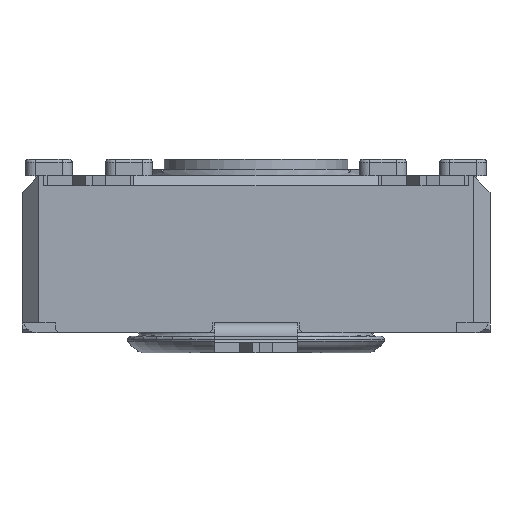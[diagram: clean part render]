
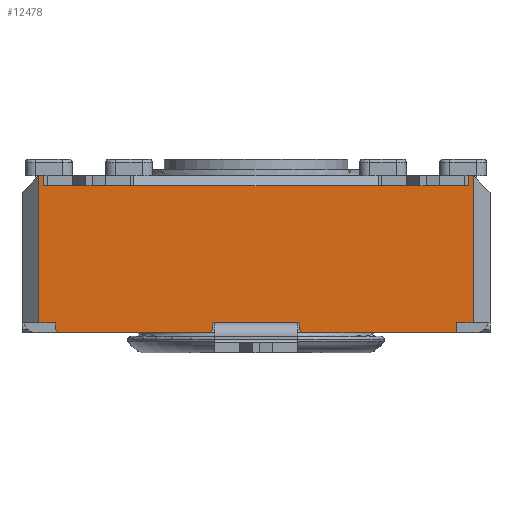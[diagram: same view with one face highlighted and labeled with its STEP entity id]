
A CAD part, front view. The second image highlights one B-rep face of the part: STEP entity #12478.
In plain terms, the highlighted planar face has unit normal (0, -1, 0).
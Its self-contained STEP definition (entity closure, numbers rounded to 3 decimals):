
#192=PLANE('',#13187);
#691=FACE_OUTER_BOUND('',#1356,.T.);
#1356=EDGE_LOOP('',(#8649,#8650,#8651,#8652,#8653,#8654,#8655,#8656,#8657,
#8658,#8659,#8660,#8661,#8662,#8663,#8664,#8665,#8666,#8667,#8668,#8669,
#8670,#8671,#8672,#8673,#8674,#8675));
#2076=LINE('',#17830,#3553);
#2088=LINE('',#17862,#3565);
#2093=LINE('',#17872,#3570);
#2149=LINE('',#17988,#3626);
#2152=LINE('',#17994,#3629);
#2178=LINE('',#18058,#3655);
#2179=LINE('',#18060,#3656);
#2180=LINE('',#18062,#3657);
#2181=LINE('',#18063,#3658);
#2182=LINE('',#18065,#3659);
#2183=LINE('',#18067,#3660);
#2184=LINE('',#18069,#3661);
#2185=LINE('',#18071,#3662);
#2186=LINE('',#18072,#3663);
#2187=LINE('',#18074,#3664);
#2188=LINE('',#18076,#3665);
#2189=LINE('',#18078,#3666);
#2190=LINE('',#18080,#3667);
#2191=LINE('',#18082,#3668);
#2192=LINE('',#18084,#3669);
#2193=LINE('',#18086,#3670);
#2194=LINE('',#18088,#3671);
#2195=LINE('',#18090,#3672);
#2196=LINE('',#18091,#3673);
#2197=LINE('',#18093,#3674);
#2198=LINE('',#18095,#3675);
#2199=LINE('',#18096,#3676);
#3553=VECTOR('',#14302,10.);
#3565=VECTOR('',#14338,10.);
#3570=VECTOR('',#14343,10.);
#3626=VECTOR('',#14411,10.);
#3629=VECTOR('',#14416,10.);
#3655=VECTOR('',#14464,10.);
#3656=VECTOR('',#14465,10.);
#3657=VECTOR('',#14466,10.);
#3658=VECTOR('',#14467,10.);
#3659=VECTOR('',#14468,10.);
#3660=VECTOR('',#14469,10.);
#3661=VECTOR('',#14470,10.);
#3662=VECTOR('',#14471,10.);
#3663=VECTOR('',#14472,10.);
#3664=VECTOR('',#14473,10.);
#3665=VECTOR('',#14474,10.);
#3666=VECTOR('',#14475,10.);
#3667=VECTOR('',#14476,10.);
#3668=VECTOR('',#14477,10.);
#3669=VECTOR('',#14478,10.);
#3670=VECTOR('',#14479,10.);
#3671=VECTOR('',#14480,10.);
#3672=VECTOR('',#14481,10.);
#3673=VECTOR('',#14482,10.);
#3674=VECTOR('',#14483,10.);
#3675=VECTOR('',#14484,10.);
#3676=VECTOR('',#14485,10.);
#5323=VERTEX_POINT('',#17809);
#5331=VERTEX_POINT('',#17829);
#5339=VERTEX_POINT('',#17861);
#5343=VERTEX_POINT('',#17869);
#5344=VERTEX_POINT('',#17871);
#5397=VERTEX_POINT('',#17985);
#5398=VERTEX_POINT('',#17987);
#5399=VERTEX_POINT('',#17991);
#5400=VERTEX_POINT('',#17993);
#5427=VERTEX_POINT('',#18057);
#5428=VERTEX_POINT('',#18059);
#5429=VERTEX_POINT('',#18061);
#5430=VERTEX_POINT('',#18064);
#5431=VERTEX_POINT('',#18066);
#5432=VERTEX_POINT('',#18068);
#5433=VERTEX_POINT('',#18070);
#5434=VERTEX_POINT('',#18073);
#5435=VERTEX_POINT('',#18075);
#5436=VERTEX_POINT('',#18077);
#5437=VERTEX_POINT('',#18079);
#5438=VERTEX_POINT('',#18081);
#5439=VERTEX_POINT('',#18083);
#5440=VERTEX_POINT('',#18085);
#5441=VERTEX_POINT('',#18087);
#5442=VERTEX_POINT('',#18089);
#5443=VERTEX_POINT('',#18092);
#5444=VERTEX_POINT('',#18094);
#6565=EDGE_CURVE('',#5323,#5331,#2076,.T.);
#6581=EDGE_CURVE('',#5339,#5323,#2088,.T.);
#6586=EDGE_CURVE('',#5344,#5343,#2093,.T.);
#6644=EDGE_CURVE('',#5398,#5397,#2149,.T.);
#6647=EDGE_CURVE('',#5400,#5399,#2152,.T.);
#6679=EDGE_CURVE('',#5397,#5427,#2178,.T.);
#6680=EDGE_CURVE('',#5427,#5428,#2179,.T.);
#6681=EDGE_CURVE('',#5428,#5429,#2180,.T.);
#6682=EDGE_CURVE('',#5344,#5429,#2181,.T.);
#6683=EDGE_CURVE('',#5343,#5430,#2182,.T.);
#6684=EDGE_CURVE('',#5431,#5430,#2183,.T.);
#6685=EDGE_CURVE('',#5431,#5432,#2184,.T.);
#6686=EDGE_CURVE('',#5433,#5432,#2185,.T.);
#6687=EDGE_CURVE('',#5339,#5433,#2186,.T.);
#6688=EDGE_CURVE('',#5331,#5434,#2187,.T.);
#6689=EDGE_CURVE('',#5434,#5435,#2188,.T.);
#6690=EDGE_CURVE('',#5436,#5435,#2189,.T.);
#6691=EDGE_CURVE('',#5436,#5437,#2190,.T.);
#6692=EDGE_CURVE('',#5437,#5438,#2191,.T.);
#6693=EDGE_CURVE('',#5438,#5439,#2192,.T.);
#6694=EDGE_CURVE('',#5440,#5439,#2193,.T.);
#6695=EDGE_CURVE('',#5440,#5441,#2194,.T.);
#6696=EDGE_CURVE('',#5441,#5442,#2195,.T.);
#6697=EDGE_CURVE('',#5442,#5400,#2196,.T.);
#6698=EDGE_CURVE('',#5399,#5443,#2197,.T.);
#6699=EDGE_CURVE('',#5444,#5443,#2198,.T.);
#6700=EDGE_CURVE('',#5444,#5398,#2199,.T.);
#8649=ORIENTED_EDGE('',*,*,#6644,.T.);
#8650=ORIENTED_EDGE('',*,*,#6679,.T.);
#8651=ORIENTED_EDGE('',*,*,#6680,.T.);
#8652=ORIENTED_EDGE('',*,*,#6681,.T.);
#8653=ORIENTED_EDGE('',*,*,#6682,.F.);
#8654=ORIENTED_EDGE('',*,*,#6586,.T.);
#8655=ORIENTED_EDGE('',*,*,#6683,.T.);
#8656=ORIENTED_EDGE('',*,*,#6684,.F.);
#8657=ORIENTED_EDGE('',*,*,#6685,.T.);
#8658=ORIENTED_EDGE('',*,*,#6686,.F.);
#8659=ORIENTED_EDGE('',*,*,#6687,.F.);
#8660=ORIENTED_EDGE('',*,*,#6581,.T.);
#8661=ORIENTED_EDGE('',*,*,#6565,.T.);
#8662=ORIENTED_EDGE('',*,*,#6688,.T.);
#8663=ORIENTED_EDGE('',*,*,#6689,.T.);
#8664=ORIENTED_EDGE('',*,*,#6690,.F.);
#8665=ORIENTED_EDGE('',*,*,#6691,.T.);
#8666=ORIENTED_EDGE('',*,*,#6692,.T.);
#8667=ORIENTED_EDGE('',*,*,#6693,.T.);
#8668=ORIENTED_EDGE('',*,*,#6694,.F.);
#8669=ORIENTED_EDGE('',*,*,#6695,.T.);
#8670=ORIENTED_EDGE('',*,*,#6696,.T.);
#8671=ORIENTED_EDGE('',*,*,#6697,.T.);
#8672=ORIENTED_EDGE('',*,*,#6647,.T.);
#8673=ORIENTED_EDGE('',*,*,#6698,.T.);
#8674=ORIENTED_EDGE('',*,*,#6699,.F.);
#8675=ORIENTED_EDGE('',*,*,#6700,.T.);
#12478=ADVANCED_FACE('',(#691),#192,.T.);
#13187=AXIS2_PLACEMENT_3D('',#18056,#14462,#14463);
#14302=DIRECTION('',(1.,0.,0.));
#14338=DIRECTION('',(1.,0.,0.));
#14343=DIRECTION('',(1.,0.,0.));
#14411=DIRECTION('',(-1.,0.,0.));
#14416=DIRECTION('',(-1.,0.,0.));
#14462=DIRECTION('center_axis',(0.,-1.,0.));
#14463=DIRECTION('ref_axis',(0.,0.,-1.));
#14464=DIRECTION('',(-1.,0.,0.));
#14465=DIRECTION('',(0.,0.,1.));
#14466=DIRECTION('',(-1.,0.,0.));
#14467=DIRECTION('',(0.,0.,1.));
#14468=DIRECTION('',(0.,0.,-1.));
#14469=DIRECTION('',(-0.707,0.,0.707));
#14470=DIRECTION('',(1.,0.,0.));
#14471=DIRECTION('',(-0.707,0.,-0.707));
#14472=DIRECTION('',(0.,0.,-1.));
#14473=DIRECTION('',(1.,0.,0.));
#14474=DIRECTION('',(0.,0.,-1.));
#14475=DIRECTION('',(-0.707,0.,0.707));
#14476=DIRECTION('',(1.,0.,0.));
#14477=DIRECTION('',(0.,0.,1.));
#14478=DIRECTION('',(1.,0.,0.));
#14479=DIRECTION('',(0.,0.,-1.));
#14480=DIRECTION('',(-1.,0.,0.));
#14481=DIRECTION('',(0.,0.,-1.));
#14482=DIRECTION('',(-1.,0.,0.));
#14483=DIRECTION('',(-1.,0.,0.));
#14484=DIRECTION('',(1.,0.,0.));
#14485=DIRECTION('',(-1.,0.,0.));
#17809=CARTESIAN_POINT('',(-8.717,-9.898,0.));
#17829=CARTESIAN_POINT('',(-6.217,-9.898,0.));
#17830=CARTESIAN_POINT('',(-14.467,-9.898,0.));
#17861=CARTESIAN_POINT('',(-8.767,-9.898,0.));
#17862=CARTESIAN_POINT('',(-14.467,-9.898,0.));
#17869=CARTESIAN_POINT('',(-13.467,-9.898,0.));
#17871=CARTESIAN_POINT('',(-13.967,-9.898,0.));
#17872=CARTESIAN_POINT('',(-7.245,-9.898,0.));
#17985=CARTESIAN_POINT('',(-13.717,-9.898,4.1));
#17987=CARTESIAN_POINT('',(-11.217,-9.898,4.1));
#17988=CARTESIAN_POINT('',(-6.467,-9.898,4.1));
#17991=CARTESIAN_POINT('',(-3.717,-9.898,4.1));
#17993=CARTESIAN_POINT('',(-1.217,-9.898,4.1));
#17994=CARTESIAN_POINT('',(-1.467,-9.898,4.1));
#18056=CARTESIAN_POINT('Origin',(-0.467,-9.898,0.));
#18057=CARTESIAN_POINT('',(-13.817,-9.898,4.1));
#18058=CARTESIAN_POINT('',(-3.944,-9.898,4.1));
#18059=CARTESIAN_POINT('',(-13.817,-9.898,4.4));
#18060=CARTESIAN_POINT('',(-13.817,-9.898,2.2));
#18061=CARTESIAN_POINT('',(-13.967,-9.898,4.4));
#18062=CARTESIAN_POINT('',(-14.467,-9.898,4.4));
#18063=CARTESIAN_POINT('',(-13.967,-9.898,0.));
#18064=CARTESIAN_POINT('',(-13.467,-9.898,-0.2));
#18065=CARTESIAN_POINT('',(-13.467,-9.898,-0.15));
#18066=CARTESIAN_POINT('',(-13.367,-9.898,-0.3));
#18067=CARTESIAN_POINT('',(-10.242,-9.898,-3.425));
#18068=CARTESIAN_POINT('',(-8.867,-9.898,-0.3));
#18069=CARTESIAN_POINT('',(-0.467,-9.898,-0.3));
#18070=CARTESIAN_POINT('',(-8.767,-9.898,-0.2));
#18071=CARTESIAN_POINT('',(-6.667,-9.898,1.9));
#18072=CARTESIAN_POINT('',(-8.767,-9.898,0.));
#18073=CARTESIAN_POINT('',(-6.167,-9.898,0.));
#18074=CARTESIAN_POINT('',(-14.467,-9.898,0.));
#18075=CARTESIAN_POINT('',(-6.167,-9.898,-0.2));
#18076=CARTESIAN_POINT('',(-6.167,-9.898,0.));
#18077=CARTESIAN_POINT('',(-6.067,-9.898,-0.3));
#18078=CARTESIAN_POINT('',(-4.767,-9.898,-1.6));
#18079=CARTESIAN_POINT('',(-1.467,-9.898,-0.3));
#18080=CARTESIAN_POINT('',(-0.467,-9.898,-0.3));
#18081=CARTESIAN_POINT('',(-1.467,-9.898,0.));
#18082=CARTESIAN_POINT('',(-1.467,-9.898,-0.15));
#18083=CARTESIAN_POINT('',(-0.967,-9.898,0.));
#18084=CARTESIAN_POINT('',(-0.646,-9.898,0.));
#18085=CARTESIAN_POINT('',(-0.967,-9.898,4.4));
#18086=CARTESIAN_POINT('',(-0.967,-9.898,0.));
#18087=CARTESIAN_POINT('',(-1.117,-9.898,4.4));
#18088=CARTESIAN_POINT('',(-14.467,-9.898,4.4));
#18089=CARTESIAN_POINT('',(-1.117,-9.898,4.1));
#18090=CARTESIAN_POINT('',(-1.117,-9.898,2.2));
#18091=CARTESIAN_POINT('',(-1.862,-9.898,4.1));
#18092=CARTESIAN_POINT('',(-3.817,-9.898,4.1));
#18093=CARTESIAN_POINT('',(-1.862,-9.898,4.1));
#18094=CARTESIAN_POINT('',(-11.117,-9.898,4.1));
#18095=CARTESIAN_POINT('',(-3.967,-9.898,4.1));
#18096=CARTESIAN_POINT('',(-3.944,-9.898,4.1));
